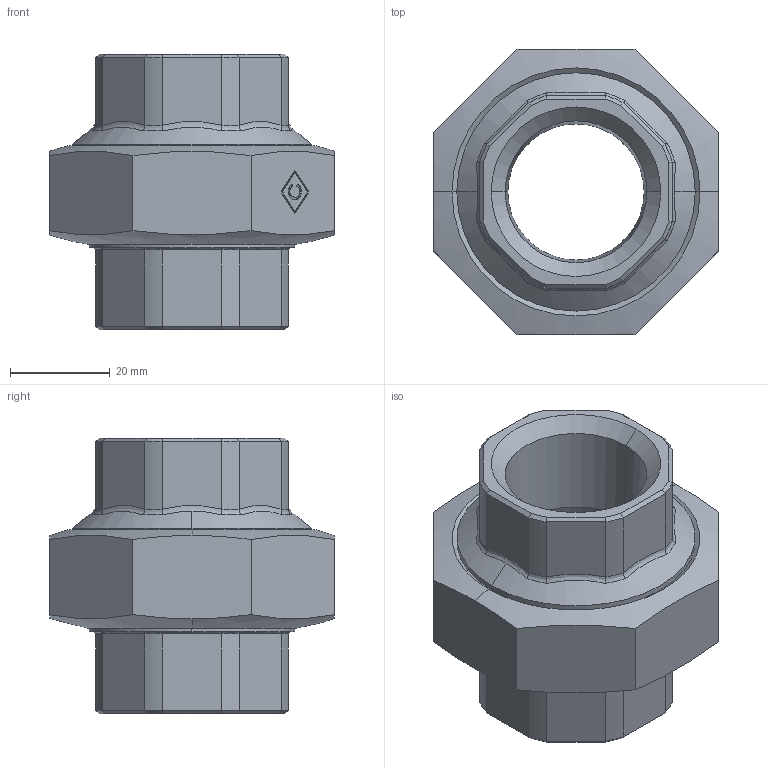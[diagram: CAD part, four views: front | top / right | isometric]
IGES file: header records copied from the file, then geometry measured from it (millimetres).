
Global section: file name: No Iges File Name specified; native system: AutoDesk Inventor R12.0; preprocessor: AutoDesk Inventor Iges Exporter R12.0; date: 20090917.135833; units: millimetre
Bounding box: 57.15 x 57.15 x 55.24 mm (x, y, z)
Volume: 59274.8 mm3; surface area: 19514 mm2
Topology: 1 solids, 2 shells, 162 faces, 392 edges, 240 vertices
Faces by surface type: plane 60, bspline 36, revolution 26, cylinder 22, cone 18
